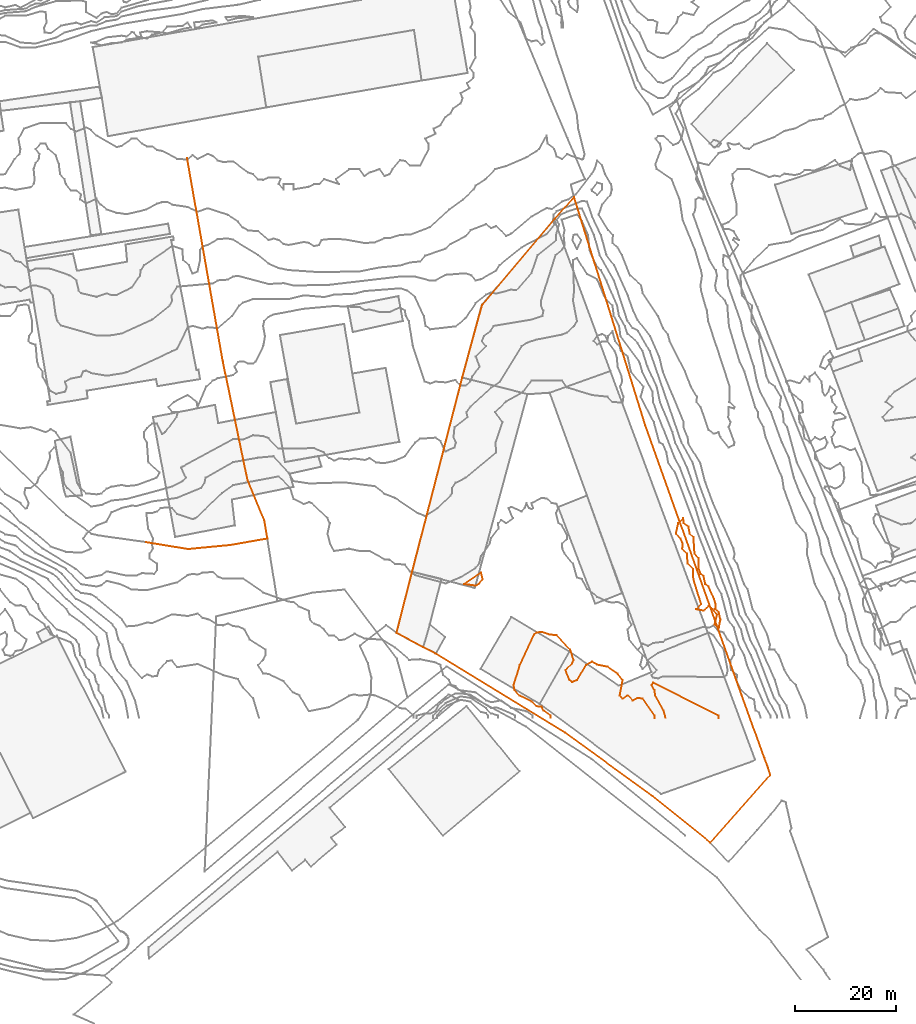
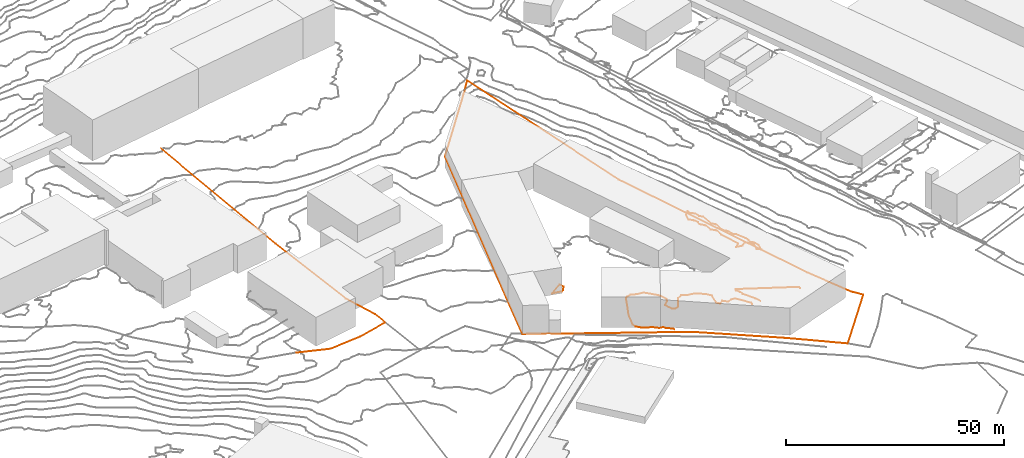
# Not in any storey, part 108 of 419: 7 proxies.
"""IFC2X3 model written with IfcOpenShell, lengths in metres."""

from ifc_helpers import new_model, entity, si_unit, frame, origin_with_axes, place, context, subcontext, project, element, save


model = new_model("IFC2X3")

# Units and contexts
model_context = context("Model", 3, precision=1e-05, world=origin_with_axes())
body_context = subcontext(model_context, "Body", "Model", "MODEL_VIEW")
ifc_project = project(units=[si_unit("AREAUNIT", "SQUARE_METRE"), si_unit("LENGTHUNIT", "METRE")], contexts=[model_context])

# Proxies
proxy_1_placement = place(None, frame((211.9920204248, 109.2976909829, 26.6), z_axis=(0.0, 0.0, 1.0), x_axis=(1.0, 0.0, 0.0)))
element("IfcBuildingElementProxy", 1, at=proxy_1_placement, Name="Route 158", ObjectType="NOTDEFINED", context=body_context, shape_type="GeometricCurveSet", body=[
    entity("IfcGeometricCurveSet", [entity("IfcPolyline", [entity("IfcCartesianPoint", [0.0, 0.0, 0.0]), entity("IfcCartesianPoint", [7.1, -40.4000000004, -4.7]), entity("IfcCartesianPoint", [12.0, -63.9000000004, -7.4]), entity("IfcCartesianPoint", [15.2999999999, -71.8000000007, -8.2]), entity("IfcCartesianPoint", [15.9, -75.4000000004, -8.5])])]),
])
proxy_2_placement = place(None, frame((203.6920204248, 33.1976909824, 18.5), z_axis=(0.0, 0.0, 1.0), x_axis=(1.0, 0.0, 0.0)))
element("IfcBuildingElementProxy", 2, at=proxy_2_placement, Name="Route 160", ObjectType="NOTDEFINED", context=body_context, shape_type="GeometricCurveSet", body=[
    entity("IfcGeometricCurveSet", [entity("IfcPolyline", [entity("IfcCartesianPoint", [0.0, 0.0, 0.0]), entity("IfcCartesianPoint", [8.5, -1.3999999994, -1.0]), entity("IfcCartesianPoint", [16.8, -0.5999999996, -1.0]), entity("IfcCartesianPoint", [24.2000000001, 0.7000000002, -0.4])])]),
])
proxy_3_placement = place(None, frame((253.4020204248, 15.2276909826, 17.2577542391), z_axis=(0.0, 0.0, 1.0), x_axis=(1.0, 0.0, 0.0)))
element("IfcBuildingElementProxy", 3, at=proxy_3_placement, Name="Cadastre 338", ObjectType="NOTDEFINED", context=body_context, shape_type="GeometricCurveSet", body=[
    entity("IfcGeometricCurveSet", [entity("IfcPolyline", [entity("IfcCartesianPoint", [35.1, 86.1600000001, 6.2783822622]), entity("IfcCartesianPoint", [49.1699999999, 41.1100000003, 0.978537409]), entity("IfcCartesianPoint", [68.23, -12.29, 0.6948055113]), entity("IfcCartesianPoint", [72.73, -24.7299999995, 1.306245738]), entity("IfcCartesianPoint", [73.37, -26.3899999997, 1.7064460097]), entity("IfcCartesianPoint", [73.89, -28.04, 2.0652462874]), entity("IfcCartesianPoint", [62.0299999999, -41.4500000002, 0.7538460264]), entity("IfcCartesianPoint", [50.6499999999, -32.2800000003, 0.7384456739]), entity("IfcCartesianPoint", [33.2999999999, -19.7199999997, 0.8710465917]), entity("IfcCartesianPoint", [7.75, -4.0800000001, -0.1683545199]), entity("IfcCartesianPoint", [5.2899999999, -2.8200000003, 0.034406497]), entity("IfcCartesianPoint", [0.0, 0.0, 0.0]), entity("IfcCartesianPoint", [3.09, 12.0899999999, 0.7579262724]), entity("IfcCartesianPoint", [13.0, 50.4800000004, 3.9703667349]), entity("IfcCartesianPoint", [16.9199999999, 64.8399999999, 4.3810727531]), entity("IfcCartesianPoint", [31.22, 81.79, 4.9109973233]), entity("IfcCartesianPoint", [35.1, 86.1600000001, 6.2783822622])])]),
])
proxy_4_placement = place(None, frame((266.7586870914, 24.8976909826, 18.0), z_axis=(0.0, 0.0, 1.0), x_axis=(1.0, 0.0, 0.0)))
element("IfcBuildingElementProxy", 4, at=proxy_4_placement, Name="Contour 18.0 m", ObjectType="NOTDEFINED", context=body_context, shape_type="GeometricCurveSet", body=[
    entity("IfcGeometricCurveSet", [entity("IfcPolyline", [entity("IfcCartesianPoint", [2.8888794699, 0.0, 0.0]), entity("IfcCartesianPoint", [2.3333333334, -0.3333290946, 0.0]), entity("IfcCartesianPoint", [0.0, 0.0, 0.0]), entity("IfcCartesianPoint", [3.3333333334, 2.3000057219, 0.0]), entity("IfcCartesianPoint", [3.6781611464, 1.0, 0.0]), entity("IfcCartesianPoint", [2.8888794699, 0.0, 0.0])])]),
])
proxy_5_placement = place(None, frame((308.6253546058, 34.8976909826, 18.0), z_axis=(0.0, 0.0, 1.0), x_axis=(1.0, 0.0, 0.0)))
element("IfcBuildingElementProxy", 5, at=proxy_5_placement, Name="Contour 18.0 m", ObjectType="NOTDEFINED", context=body_context, shape_type="GeometricCurveSet", body=[
    entity("IfcGeometricCurveSet", [entity("IfcPolyline", [entity("IfcCartesianPoint", [8.4666658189, -18.7999961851, 0.0]), entity("IfcCartesianPoint", [8.7901968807, -17.0, 0.0]), entity("IfcCartesianPoint", [8.4666658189, -15.5000124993, 0.0]), entity("IfcCartesianPoint", [7.7999991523, -15.0, 0.0]), entity("IfcCartesianPoint", [7.8714278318, -14.0, 0.0]), entity("IfcCartesianPoint", [7.5747761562, -13.0, 0.0]), entity("IfcCartesianPoint", [6.4666658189, -10.5000045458, 0.0]), entity("IfcCartesianPoint", [5.8196036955, -10.0, 0.0]), entity("IfcCartesianPoint", [5.4666658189, -8.4545438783, 0.0]), entity("IfcCartesianPoint", [4.9111196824, -8.0, 0.0]), entity("IfcCartesianPoint", [4.5333341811, -7.0, 0.0]), entity("IfcCartesianPoint", [4.4666658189, -4.8749970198, 0.0]), entity("IfcCartesianPoint", [3.6888927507, -4.0, 0.0]), entity("IfcCartesianPoint", [3.4666658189, -0.7500023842, 0.0]), entity("IfcCartesianPoint", [2.7523788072, 0.0, 0.0]), entity("IfcCartesianPoint", [2.4666658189, 1.3235310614, 0.0]), entity("IfcCartesianPoint", [1.5083334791, 2.0, 0.0]), entity("IfcCartesianPoint", [1.4666658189, 2.9999000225, 0.0]), entity("IfcCartesianPoint", [0.4666658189, 1.9999500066, 0.0]), entity("IfcCartesianPoint", [0.0, 0.0, 0.0]), entity("IfcCartesianPoint", [0.9212096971, -1.0, 0.0]), entity("IfcCartesianPoint", [1.3416628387, -2.0, 0.0]), entity("IfcCartesianPoint", [1.2666632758, -3.0, 0.0]), entity("IfcCartesianPoint", [2.1809437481, -4.0, 0.0]), entity("IfcCartesianPoint", [2.3416628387, -6.0, 0.0]), entity("IfcCartesianPoint", [3.3666639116, -7.0, 0.0]), entity("IfcCartesianPoint", [3.4666658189, -8.9999666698, 0.0]), entity("IfcCartesianPoint", [5.0, -14.0, 0.0]), entity("IfcCartesianPoint", [3.9666824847, -15.0, 0.0]), entity("IfcCartesianPoint", [5.4666658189, -15.25, 0.0]), entity("IfcCartesianPoint", [6.4666658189, -14.3999974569, 0.0]), entity("IfcCartesianPoint", [7.2848444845, -15.0, 0.0]), entity("IfcCartesianPoint", [8.1333271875, -16.0, 0.0]), entity("IfcCartesianPoint", [7.6666696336, -18.0, 0.0]), entity("IfcCartesianPoint", [8.4666658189, -18.7999961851, 0.0])])]),
])
proxy_6_placement = place(None, frame((276.546564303, 4.8976909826, 18.0), z_axis=(0.0, 0.0, 1.0), x_axis=(1.0, 0.0, 0.0)))
element("IfcBuildingElementProxy", 6, at=proxy_6_placement, Name="Contour 18.0 m", ObjectType="NOTDEFINED", context=body_context, shape_type="GeometricCurveSet", body=[
    entity("IfcGeometricCurveSet", [entity("IfcPolyline", [entity("IfcCartesianPoint", [7.2787860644, -6.5, 0.0]), entity("IfcCartesianPoint", [7.2787860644, -6.0, 0.0]), entity("IfcCartesianPoint", [5.9204531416, -5.0, 0.0]), entity("IfcCartesianPoint", [5.5454561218, -4.2500059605, 0.0]), entity("IfcCartesianPoint", [4.5454561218, -4.1600036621, 0.0]), entity("IfcCartesianPoint", [3.5454561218, -3.2222269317, 0.0]), entity("IfcCartesianPoint", [1.1454545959, -2.0, 0.0]), entity("IfcCartesianPoint", [0.2121174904, -1.0, 0.0]), entity("IfcCartesianPoint", [0.0, 0.0, 0.0]), entity("IfcCartesianPoint", [1.2296671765, 4.0, 0.0]), entity("IfcCartesianPoint", [4.0191398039, 10.0, 0.0]), entity("IfcCartesianPoint", [4.5454561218, 10.4166686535, 0.0]), entity("IfcCartesianPoint", [5.5454561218, 10.5517254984, 0.0]), entity("IfcCartesianPoint", [7.1168846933, 10.0, 0.0]), entity("IfcCartesianPoint", [8.5454561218, 9.8947347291, 0.0]), entity("IfcCartesianPoint", [11.22192506, 7.0, 0.0]), entity("IfcCartesianPoint", [11.8579516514, 5.0, 0.0]), entity("IfcCartesianPoint", [11.5454561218, 4.2857220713, 0.0]), entity("IfcCartesianPoint", [10.259734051, 3.0, 0.0]), entity("IfcCartesianPoint", [11.0455061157, 1.0, 0.0]), entity("IfcCartesianPoint", [11.5454561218, 0.666666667, 0.0]), entity("IfcCartesianPoint", [12.5454561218, 1.0000499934, 0.0]), entity("IfcCartesianPoint", [14.2954501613, 4.0, 0.0]), entity("IfcCartesianPoint", [15.5454561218, 4.6249992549, 0.0]), entity("IfcCartesianPoint", [16.5454561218, 4.0555567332, 0.0]), entity("IfcCartesianPoint", [18.5454561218, 3.6521735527, 0.0]), entity("IfcCartesianPoint", [20.5454561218, 2.2777760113, 0.0]), entity("IfcCartesianPoint", [21.5454644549, 1.0, 0.0]), entity("IfcCartesianPoint", [20.9740275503, -2.0, 0.0]), entity("IfcCartesianPoint", [21.5454561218, -2.666666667, 0.0]), entity("IfcCartesianPoint", [22.5454561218, -1.9999800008, 0.0]), entity("IfcCartesianPoint", [23.5454561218, -2.9999500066, 0.0]), entity("IfcCartesianPoint", [24.5454561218, -2.4999500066, 0.0]), entity("IfcCartesianPoint", [25.5454561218, -2.666666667, 0.0]), entity("IfcCartesianPoint", [27.8787894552, -6.0, 0.0]), entity("IfcCartesianPoint", [27.8787894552, -6.5, 0.0])])]),
])
proxy_7_placement = place(None, frame((303.8420204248, 4.8976909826, 18.0), z_axis=(0.0, 0.0, 1.0), x_axis=(1.0, 0.0, 0.0)))
element("IfcBuildingElementProxy", 7, at=proxy_7_placement, Name="Contour 18.0 m", ObjectType="NOTDEFINED", context=body_context, shape_type="GeometricCurveSet", body=[
    entity("IfcGeometricCurveSet", [entity("IfcPolyline", [entity("IfcCartesianPoint", [2.7499833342, -6.5, 0.0]), entity("IfcCartesianPoint", [2.3611134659, -5.0, 0.0]), entity("IfcCartesianPoint", [0.6785714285, -2.0, 0.0]), entity("IfcCartesianPoint", [0.5833333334, -1.0, 0.0]), entity("IfcCartesianPoint", [0.0, 0.0, 0.0]), entity("IfcCartesianPoint", [0.25, 0.5000499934, 0.0]), entity("IfcCartesianPoint", [13.2500999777, -6.0, 0.0]), entity("IfcCartesianPoint", [13.2500999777, -6.5, 0.0])])]),
])

save(model, "model.ifc")
